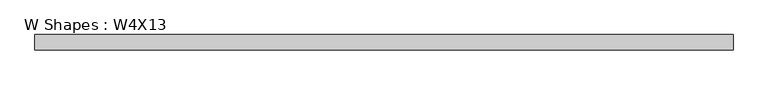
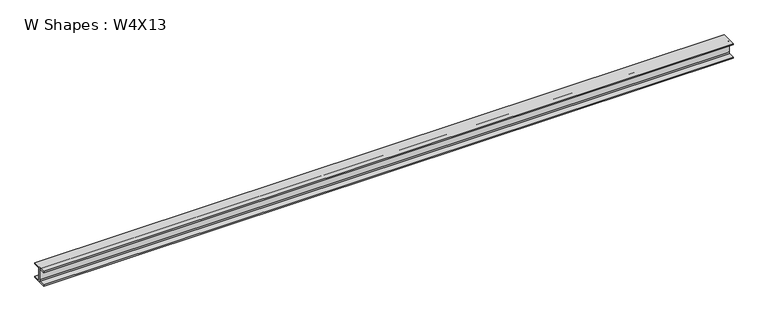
"""IFC4 building model written with IfcOpenShell, lengths in millimetres: beam geometry, W Shapes : W4X13."""

from ifc_helpers import new_model, si_unit, point, frame, frame_2d, origin, place, context, project, spatial, polyline, circle_curve, trimmed, segment, composite_curve, outline, extrude, source, transform, mapped, element, save


def w_shapes_w4x13_0f4ee4ba(model_context):
    return source(origin(), model_context, "Body", "SweptSolid", [
        extrude(outline(composite_curve([segment(polyline([(-51.562, -44.069), (-9.906, -44.069)]), True, "CONTINUOUS"), segment(trimmed(circle_curve(frame_2d((-9.906, -37.719)), 6.35), [point((-9.906, -44.069))], [point((-3.556, -37.719))], True, "CARTESIAN"), True, "CONTINUOUS"), segment(polyline([(-3.556, -37.719), (-3.556, 37.719)]), True, "CONTINUOUS"), segment(trimmed(circle_curve(frame_2d((-9.906, 37.719)), 6.35), [point((-3.556, 37.719))], [point((-9.906, 44.069))], True, "CARTESIAN"), True, "CONTINUOUS"), segment(polyline([(-9.906, 44.069), (-51.562, 44.069), (-51.562, 52.832), (51.562, 52.832), (51.562, 44.069), (9.906, 44.069)]), True, "CONTINUOUS"), segment(trimmed(circle_curve(frame_2d((9.906, 37.719)), 6.35), [point((9.906, 44.069))], [point((3.556, 37.719))], True, "CARTESIAN"), True, "CONTINUOUS"), segment(polyline([(3.556, 37.719), (3.556, -37.719)]), True, "CONTINUOUS"), segment(trimmed(circle_curve(frame_2d((9.906, -37.719)), 6.35), [point((3.556, -37.719))], [point((9.906, -44.069))], True, "CARTESIAN"), True, "CONTINUOUS"), segment(polyline([(9.906, -44.069), (51.562, -44.069), (51.562, -52.832), (-51.562, -52.832), (-51.562, -44.069)]), True, "CONTINUOUS")], self_intersect=False)), frame((-2349.373, 0.0, 0.0), z_axis=(1.0, 0.0, 0.0), x_axis=(0.0, 1.0, 0.0)), (0.0, 0.0, 1.0), 4698.746),
    ])


if __name__ == "__main__":
    model = new_model("IFC4")
    model_context = context("Model", 3, world=origin())
    ifc_project = project(units=[si_unit("LENGTHUNIT", "METRE", prefix="MILLI")], contexts=[model_context])
    site = spatial("IfcSite", under=ifc_project)
    building = spatial("IfcBuilding", under=site)
    placement = place(None, origin())
    w_shapes_w4x13_shape = w_shapes_w4x13_0f4ee4ba(model_context)
    element("IfcBeam", 1, ObjectType="W Shapes : W4X13", at=placement, inside=building, context=model_context, shape_type="MappedRepresentation", body=[
        mapped(w_shapes_w4x13_shape, transform((0.0, 0.0, 0.0), x_axis=(1.0, 0.0, 0.0), y_axis=(0.0, 1.0, 0.0), z_axis=(0.0, 0.0, 1.0))),
    ])
    save(model, "model.ifc")
